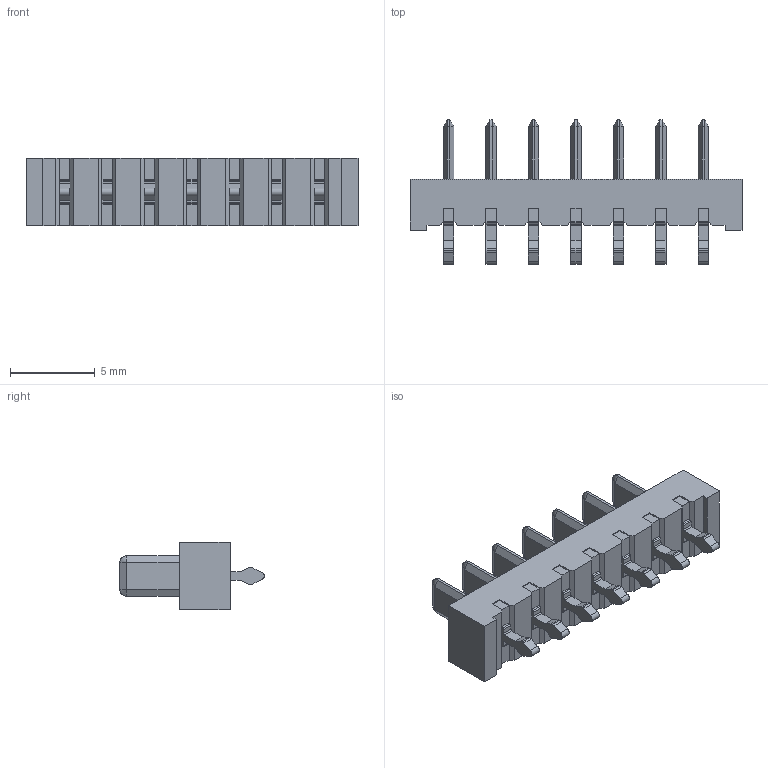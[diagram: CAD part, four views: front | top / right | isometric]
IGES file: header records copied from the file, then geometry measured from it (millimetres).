
Start section: SolidWorks IGES file using analytic representation for surfaces
Global section: file name: C:\Users\hsuan\Desktop\°õ¦æ§@·~\RFQ³æ\2026¦~\6¤ë\RB126060151\TSB1-05270-05XXA[3D].IGS; native system: SolidWorks 2022; preprocessor: SolidWorks 2022; author: hsuan; date: 260701.162646; units: millimetre
Bounding box: 19.55 x 8.5 x 4 mm (x, y, z)
Surface area: 748.1 mm2 (no closed solid volume)
Topology: 0 solids, 0 shells, 474 faces, 3174 edges, 3146 vertices
Faces by surface type: bspline 362, revolution 112
